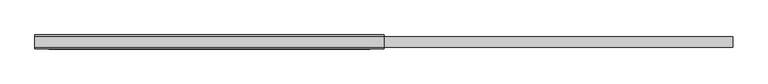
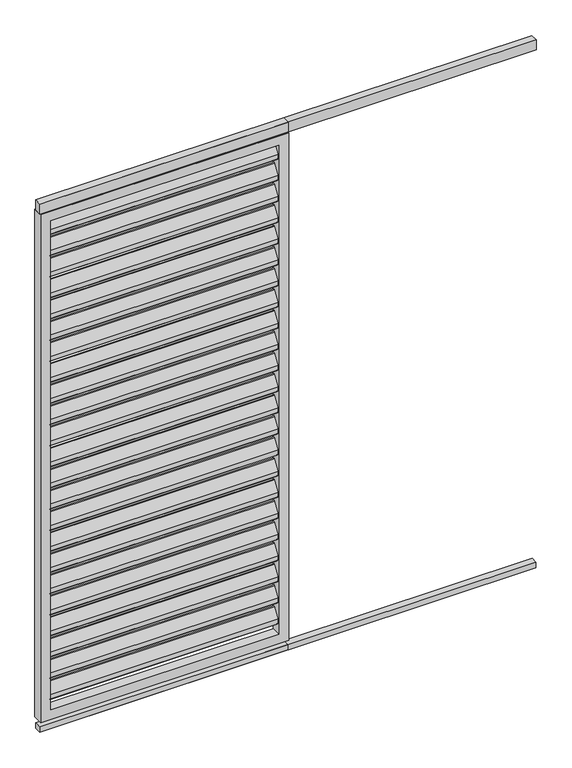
"""IFC4 building model written with IfcOpenShell, lengths in millimetres: proxy geometry, Renson_Camargue_Loggia_Paro_Aluminium : Renson_Camargue_Loggia_Paro_Aluminium."""

from ifc_helpers import new_model, si_unit, point, frame, frame_2d, origin, origin_with_axes, place, context, project, spatial, polyline, circle_curve, trimmed, segment, composite_curve, outline, extrude, source, transform, mapped, element, save


def generic_models_a9ccf2dc(model_context):
    return source(origin(), model_context, "Body", "SweptSolid", [
        extrude(outline(composite_curve([segment(trimmed(circle_curve(frame_2d((12.6675921, 2162.6587719)), 3.0), [point((10.1515804, 2164.292689))], [point((15.6675921, 2162.6587719))], False, "CARTESIAN"), True, "CONTINUOUS"), segment(polyline([(15.6675921, 2162.6587719), (15.6675921, 2144.2979873)]), True, "CONTINUOUS"), segment(trimmed(circle_curve(frame_2d((12.6675921, 2144.2979873)), 3.0), [point((15.6675921, 2144.2979873))], [point((15.1836038, 2142.6640702))], False, "CARTESIAN"), True, "CONTINUOUS"), segment(polyline([(15.1836038, 2142.6640702), (-8.8163962, 2105.707311)]), True, "CONTINUOUS"), segment(trimmed(circle_curve(frame_2d((-11.3324079, 2107.3412281)), 3.0), [point((-8.8163962, 2105.707311))], [point((-14.3324079, 2107.3412281))], False, "CARTESIAN"), True, "CONTINUOUS"), segment(polyline([(-14.3324079, 2107.3412281), (-14.3324079, 2126.5906532), (10.1515804, 2164.292689)]), True, "CONTINUOUS")], self_intersect=False)), frame((-460.0, 0.0, 0.0), z_axis=(1.0, 0.0, 0.0), x_axis=(0.0, 1.0, 0.0)), (0.0, 0.0, 1.0), 920.0),
        extrude(outline(composite_curve([segment(trimmed(circle_curve(frame_2d((12.6675921, 2072.6587719)), 3.0), [point((10.1515804, 2074.292689))], [point((15.6675921, 2072.6587719))], False, "CARTESIAN"), True, "CONTINUOUS"), segment(polyline([(15.6675921, 2072.6587719), (15.6675921, 2054.2979873)]), True, "CONTINUOUS"), segment(trimmed(circle_curve(frame_2d((12.6675921, 2054.2979873)), 3.0), [point((15.6675921, 2054.2979873))], [point((15.1836038, 2052.6640702))], False, "CARTESIAN"), True, "CONTINUOUS"), segment(polyline([(15.1836038, 2052.6640702), (-8.8163962, 2015.707311)]), True, "CONTINUOUS"), segment(trimmed(circle_curve(frame_2d((-11.3324079, 2017.3412281)), 3.0), [point((-8.8163962, 2015.707311))], [point((-14.3324079, 2017.3412281))], False, "CARTESIAN"), True, "CONTINUOUS"), segment(polyline([(-14.3324079, 2017.3412281), (-14.3324079, 2036.5906532), (10.1515804, 2074.292689)]), True, "CONTINUOUS")], self_intersect=False)), frame((-460.0, 0.0, 0.0), z_axis=(1.0, 0.0, 0.0), x_axis=(0.0, 1.0, 0.0)), (0.0, 0.0, 1.0), 920.0),
        extrude(outline(composite_curve([segment(trimmed(circle_curve(frame_2d((12.6675921, 1982.6587719)), 3.0), [point((10.1515804, 1984.292689))], [point((15.6675921, 1982.6587719))], False, "CARTESIAN"), True, "CONTINUOUS"), segment(polyline([(15.6675921, 1982.6587719), (15.6675921, 1964.2979873)]), True, "CONTINUOUS"), segment(trimmed(circle_curve(frame_2d((12.6675921, 1964.2979873)), 3.0), [point((15.6675921, 1964.2979873))], [point((15.1836038, 1962.6640702))], False, "CARTESIAN"), True, "CONTINUOUS"), segment(polyline([(15.1836038, 1962.6640702), (-8.8163962, 1925.707311)]), True, "CONTINUOUS"), segment(trimmed(circle_curve(frame_2d((-11.3324079, 1927.3412281)), 3.0), [point((-8.8163962, 1925.707311))], [point((-14.3324079, 1927.3412281))], False, "CARTESIAN"), True, "CONTINUOUS"), segment(polyline([(-14.3324079, 1927.3412281), (-14.3324079, 1946.5906532), (10.1515804, 1984.292689)]), True, "CONTINUOUS")], self_intersect=False)), frame((-460.0, 0.0, 0.0), z_axis=(1.0, 0.0, 0.0), x_axis=(0.0, 1.0, 0.0)), (0.0, 0.0, 1.0), 920.0),
        extrude(outline(composite_curve([segment(trimmed(circle_curve(frame_2d((12.6675921, 1892.6587719)), 3.0), [point((10.1515804, 1894.292689))], [point((15.6675921, 1892.6587719))], False, "CARTESIAN"), True, "CONTINUOUS"), segment(polyline([(15.6675921, 1892.6587719), (15.6675921, 1874.2979873)]), True, "CONTINUOUS"), segment(trimmed(circle_curve(frame_2d((12.6675921, 1874.2979873)), 3.0), [point((15.6675921, 1874.2979873))], [point((15.1836038, 1872.6640702))], False, "CARTESIAN"), True, "CONTINUOUS"), segment(polyline([(15.1836038, 1872.6640702), (-8.8163962, 1835.707311)]), True, "CONTINUOUS"), segment(trimmed(circle_curve(frame_2d((-11.3324079, 1837.3412281)), 3.0), [point((-8.8163962, 1835.707311))], [point((-14.3324079, 1837.3412281))], False, "CARTESIAN"), True, "CONTINUOUS"), segment(polyline([(-14.3324079, 1837.3412281), (-14.3324079, 1856.5906532), (10.1515804, 1894.292689)]), True, "CONTINUOUS")], self_intersect=False)), frame((-460.0, 0.0, 0.0), z_axis=(1.0, 0.0, 0.0), x_axis=(0.0, 1.0, 0.0)), (0.0, 0.0, 1.0), 920.0),
        extrude(outline(composite_curve([segment(trimmed(circle_curve(frame_2d((12.6675921, 1802.6587719)), 3.0), [point((10.1515804, 1804.292689))], [point((15.6675921, 1802.6587719))], False, "CARTESIAN"), True, "CONTINUOUS"), segment(polyline([(15.6675921, 1802.6587719), (15.6675921, 1784.2979873)]), True, "CONTINUOUS"), segment(trimmed(circle_curve(frame_2d((12.6675921, 1784.2979873)), 3.0), [point((15.6675921, 1784.2979873))], [point((15.1836038, 1782.6640702))], False, "CARTESIAN"), True, "CONTINUOUS"), segment(polyline([(15.1836038, 1782.6640702), (-8.8163962, 1745.707311)]), True, "CONTINUOUS"), segment(trimmed(circle_curve(frame_2d((-11.3324079, 1747.3412281)), 3.0), [point((-8.8163962, 1745.707311))], [point((-14.3324079, 1747.3412281))], False, "CARTESIAN"), True, "CONTINUOUS"), segment(polyline([(-14.3324079, 1747.3412281), (-14.3324079, 1766.5906532), (10.1515804, 1804.292689)]), True, "CONTINUOUS")], self_intersect=False)), frame((-460.0, 0.0, 0.0), z_axis=(1.0, 0.0, 0.0), x_axis=(0.0, 1.0, 0.0)), (0.0, 0.0, 1.0), 920.0),
        extrude(outline(composite_curve([segment(trimmed(circle_curve(frame_2d((12.6675921, 1712.6587719)), 3.0), [point((10.1515804, 1714.292689))], [point((15.6675921, 1712.6587719))], False, "CARTESIAN"), True, "CONTINUOUS"), segment(polyline([(15.6675921, 1712.6587719), (15.6675921, 1694.2979873)]), True, "CONTINUOUS"), segment(trimmed(circle_curve(frame_2d((12.6675921, 1694.2979873)), 3.0), [point((15.6675921, 1694.2979873))], [point((15.1836038, 1692.6640702))], False, "CARTESIAN"), True, "CONTINUOUS"), segment(polyline([(15.1836038, 1692.6640702), (-8.8163962, 1655.707311)]), True, "CONTINUOUS"), segment(trimmed(circle_curve(frame_2d((-11.3324079, 1657.3412281)), 3.0), [point((-8.8163962, 1655.707311))], [point((-14.3324079, 1657.3412281))], False, "CARTESIAN"), True, "CONTINUOUS"), segment(polyline([(-14.3324079, 1657.3412281), (-14.3324079, 1676.5906532), (10.1515804, 1714.292689)]), True, "CONTINUOUS")], self_intersect=False)), frame((-460.0, 0.0, 0.0), z_axis=(1.0, 0.0, 0.0), x_axis=(0.0, 1.0, 0.0)), (0.0, 0.0, 1.0), 920.0),
        extrude(outline(composite_curve([segment(trimmed(circle_curve(frame_2d((12.6675921, 1622.6587719)), 3.0), [point((10.1515804, 1624.292689))], [point((15.6675921, 1622.6587719))], False, "CARTESIAN"), True, "CONTINUOUS"), segment(polyline([(15.6675921, 1622.6587719), (15.6675921, 1604.2979873)]), True, "CONTINUOUS"), segment(trimmed(circle_curve(frame_2d((12.6675921, 1604.2979873)), 3.0), [point((15.6675921, 1604.2979873))], [point((15.1836038, 1602.6640702))], False, "CARTESIAN"), True, "CONTINUOUS"), segment(polyline([(15.1836038, 1602.6640702), (-8.8163962, 1565.707311)]), True, "CONTINUOUS"), segment(trimmed(circle_curve(frame_2d((-11.3324079, 1567.3412281)), 3.0), [point((-8.8163962, 1565.707311))], [point((-14.3324079, 1567.3412281))], False, "CARTESIAN"), True, "CONTINUOUS"), segment(polyline([(-14.3324079, 1567.3412281), (-14.3324079, 1586.5906532), (10.1515804, 1624.292689)]), True, "CONTINUOUS")], self_intersect=False)), frame((-460.0, 0.0, 0.0), z_axis=(1.0, 0.0, 0.0), x_axis=(0.0, 1.0, 0.0)), (0.0, 0.0, 1.0), 920.0),
        extrude(outline(composite_curve([segment(trimmed(circle_curve(frame_2d((12.6675921, 1532.6587719)), 3.0), [point((10.1515804, 1534.292689))], [point((15.6675921, 1532.6587719))], False, "CARTESIAN"), True, "CONTINUOUS"), segment(polyline([(15.6675921, 1532.6587719), (15.6675921, 1514.2979873)]), True, "CONTINUOUS"), segment(trimmed(circle_curve(frame_2d((12.6675921, 1514.2979873)), 3.0), [point((15.6675921, 1514.2979873))], [point((15.1836038, 1512.6640702))], False, "CARTESIAN"), True, "CONTINUOUS"), segment(polyline([(15.1836038, 1512.6640702), (-8.8163962, 1475.707311)]), True, "CONTINUOUS"), segment(trimmed(circle_curve(frame_2d((-11.3324079, 1477.3412281)), 3.0), [point((-8.8163962, 1475.707311))], [point((-14.3324079, 1477.3412281))], False, "CARTESIAN"), True, "CONTINUOUS"), segment(polyline([(-14.3324079, 1477.3412281), (-14.3324079, 1496.5906532), (10.1515804, 1534.292689)]), True, "CONTINUOUS")], self_intersect=False)), frame((-460.0, 0.0, 0.0), z_axis=(1.0, 0.0, 0.0), x_axis=(0.0, 1.0, 0.0)), (0.0, 0.0, 1.0), 920.0),
        extrude(outline(composite_curve([segment(trimmed(circle_curve(frame_2d((12.6675921, 1442.6587719)), 3.0), [point((10.1515804, 1444.292689))], [point((15.6675921, 1442.6587719))], False, "CARTESIAN"), True, "CONTINUOUS"), segment(polyline([(15.6675921, 1442.6587719), (15.6675921, 1424.2979873)]), True, "CONTINUOUS"), segment(trimmed(circle_curve(frame_2d((12.6675921, 1424.2979873)), 3.0), [point((15.6675921, 1424.2979873))], [point((15.1836038, 1422.6640702))], False, "CARTESIAN"), True, "CONTINUOUS"), segment(polyline([(15.1836038, 1422.6640702), (-8.8163962, 1385.707311)]), True, "CONTINUOUS"), segment(trimmed(circle_curve(frame_2d((-11.3324079, 1387.3412281)), 3.0), [point((-8.8163962, 1385.707311))], [point((-14.3324079, 1387.3412281))], False, "CARTESIAN"), True, "CONTINUOUS"), segment(polyline([(-14.3324079, 1387.3412281), (-14.3324079, 1406.5906532), (10.1515804, 1444.292689)]), True, "CONTINUOUS")], self_intersect=False)), frame((-460.0, 0.0, 0.0), z_axis=(1.0, 0.0, 0.0), x_axis=(0.0, 1.0, 0.0)), (0.0, 0.0, 1.0), 920.0),
        extrude(outline(composite_curve([segment(trimmed(circle_curve(frame_2d((12.6675921, 1352.6587719)), 3.0), [point((10.1515804, 1354.292689))], [point((15.6675921, 1352.6587719))], False, "CARTESIAN"), True, "CONTINUOUS"), segment(polyline([(15.6675921, 1352.6587719), (15.6675921, 1334.2979873)]), True, "CONTINUOUS"), segment(trimmed(circle_curve(frame_2d((12.6675921, 1334.2979873)), 3.0), [point((15.6675921, 1334.2979873))], [point((15.1836038, 1332.6640702))], False, "CARTESIAN"), True, "CONTINUOUS"), segment(polyline([(15.1836038, 1332.6640702), (-8.8163962, 1295.707311)]), True, "CONTINUOUS"), segment(trimmed(circle_curve(frame_2d((-11.3324079, 1297.3412281)), 3.0), [point((-8.8163962, 1295.707311))], [point((-14.3324079, 1297.3412281))], False, "CARTESIAN"), True, "CONTINUOUS"), segment(polyline([(-14.3324079, 1297.3412281), (-14.3324079, 1316.5906532), (10.1515804, 1354.292689)]), True, "CONTINUOUS")], self_intersect=False)), frame((-460.0, 0.0, 0.0), z_axis=(1.0, 0.0, 0.0), x_axis=(0.0, 1.0, 0.0)), (0.0, 0.0, 1.0), 920.0),
        extrude(outline(composite_curve([segment(trimmed(circle_curve(frame_2d((12.6675921, 1262.6587719)), 3.0), [point((10.1515804, 1264.292689))], [point((15.6675921, 1262.6587719))], False, "CARTESIAN"), True, "CONTINUOUS"), segment(polyline([(15.6675921, 1262.6587719), (15.6675921, 1244.2979873)]), True, "CONTINUOUS"), segment(trimmed(circle_curve(frame_2d((12.6675921, 1244.2979873)), 3.0), [point((15.6675921, 1244.2979873))], [point((15.1836038, 1242.6640702))], False, "CARTESIAN"), True, "CONTINUOUS"), segment(polyline([(15.1836038, 1242.6640702), (-8.8163962, 1205.707311)]), True, "CONTINUOUS"), segment(trimmed(circle_curve(frame_2d((-11.3324079, 1207.3412281)), 3.0), [point((-8.8163962, 1205.707311))], [point((-14.3324079, 1207.3412281))], False, "CARTESIAN"), True, "CONTINUOUS"), segment(polyline([(-14.3324079, 1207.3412281), (-14.3324079, 1226.5906532), (10.1515804, 1264.292689)]), True, "CONTINUOUS")], self_intersect=False)), frame((-460.0, 0.0, 0.0), z_axis=(1.0, 0.0, 0.0), x_axis=(0.0, 1.0, 0.0)), (0.0, 0.0, 1.0), 920.0),
        extrude(outline(composite_curve([segment(trimmed(circle_curve(frame_2d((12.6675921, 1172.6587719)), 3.0), [point((10.1515804, 1174.292689))], [point((15.6675921, 1172.6587719))], False, "CARTESIAN"), True, "CONTINUOUS"), segment(polyline([(15.6675921, 1172.6587719), (15.6675921, 1154.2979873)]), True, "CONTINUOUS"), segment(trimmed(circle_curve(frame_2d((12.6675921, 1154.2979873)), 3.0), [point((15.6675921, 1154.2979873))], [point((15.1836038, 1152.6640702))], False, "CARTESIAN"), True, "CONTINUOUS"), segment(polyline([(15.1836038, 1152.6640702), (-8.8163962, 1115.707311)]), True, "CONTINUOUS"), segment(trimmed(circle_curve(frame_2d((-11.3324079, 1117.3412281)), 3.0), [point((-8.8163962, 1115.707311))], [point((-14.3324079, 1117.3412281))], False, "CARTESIAN"), True, "CONTINUOUS"), segment(polyline([(-14.3324079, 1117.3412281), (-14.3324079, 1136.5906532), (10.1515804, 1174.292689)]), True, "CONTINUOUS")], self_intersect=False)), frame((-460.0, 0.0, 0.0), z_axis=(1.0, 0.0, 0.0), x_axis=(0.0, 1.0, 0.0)), (0.0, 0.0, 1.0), 920.0),
        extrude(outline(composite_curve([segment(trimmed(circle_curve(frame_2d((12.6675921, 1082.6587719)), 3.0), [point((10.1515804, 1084.292689))], [point((15.6675921, 1082.6587719))], False, "CARTESIAN"), True, "CONTINUOUS"), segment(polyline([(15.6675921, 1082.6587719), (15.6675921, 1064.2979873)]), True, "CONTINUOUS"), segment(trimmed(circle_curve(frame_2d((12.6675921, 1064.2979873)), 3.0), [point((15.6675921, 1064.2979873))], [point((15.1836038, 1062.6640702))], False, "CARTESIAN"), True, "CONTINUOUS"), segment(polyline([(15.1836038, 1062.6640702), (-8.8163962, 1025.707311)]), True, "CONTINUOUS"), segment(trimmed(circle_curve(frame_2d((-11.3324079, 1027.3412281)), 3.0), [point((-8.8163962, 1025.707311))], [point((-14.3324079, 1027.3412281))], False, "CARTESIAN"), True, "CONTINUOUS"), segment(polyline([(-14.3324079, 1027.3412281), (-14.3324079, 1046.5906532), (10.1515804, 1084.292689)]), True, "CONTINUOUS")], self_intersect=False)), frame((-460.0, 0.0, 0.0), z_axis=(1.0, 0.0, 0.0), x_axis=(0.0, 1.0, 0.0)), (0.0, 0.0, 1.0), 920.0),
        extrude(outline(composite_curve([segment(trimmed(circle_curve(frame_2d((12.6675921, 992.6587719)), 3.0), [point((10.1515804, 994.292689))], [point((15.6675921, 992.6587719))], False, "CARTESIAN"), True, "CONTINUOUS"), segment(polyline([(15.6675921, 992.6587719), (15.6675921, 974.2979873)]), True, "CONTINUOUS"), segment(trimmed(circle_curve(frame_2d((12.6675921, 974.2979873)), 3.0), [point((15.6675921, 974.2979873))], [point((15.1836038, 972.6640702))], False, "CARTESIAN"), True, "CONTINUOUS"), segment(polyline([(15.1836038, 972.6640702), (-8.8163962, 935.707311)]), True, "CONTINUOUS"), segment(trimmed(circle_curve(frame_2d((-11.3324079, 937.3412281)), 3.0), [point((-8.8163962, 935.707311))], [point((-14.3324079, 937.3412281))], False, "CARTESIAN"), True, "CONTINUOUS"), segment(polyline([(-14.3324079, 937.3412281), (-14.3324079, 956.5906532), (10.1515804, 994.292689)]), True, "CONTINUOUS")], self_intersect=False)), frame((-460.0, 0.0, 0.0), z_axis=(1.0, 0.0, 0.0), x_axis=(0.0, 1.0, 0.0)), (0.0, 0.0, 1.0), 920.0),
        extrude(outline(composite_curve([segment(trimmed(circle_curve(frame_2d((12.6675921, 902.6587719)), 3.0), [point((10.1515804, 904.292689))], [point((15.6675921, 902.6587719))], False, "CARTESIAN"), True, "CONTINUOUS"), segment(polyline([(15.6675921, 902.6587719), (15.6675921, 884.2979873)]), True, "CONTINUOUS"), segment(trimmed(circle_curve(frame_2d((12.6675921, 884.2979873)), 3.0), [point((15.6675921, 884.2979873))], [point((15.1836038, 882.6640702))], False, "CARTESIAN"), True, "CONTINUOUS"), segment(polyline([(15.1836038, 882.6640702), (-8.8163962, 845.707311)]), True, "CONTINUOUS"), segment(trimmed(circle_curve(frame_2d((-11.3324079, 847.3412281)), 3.0), [point((-8.8163962, 845.707311))], [point((-14.3324079, 847.3412281))], False, "CARTESIAN"), True, "CONTINUOUS"), segment(polyline([(-14.3324079, 847.3412281), (-14.3324079, 866.5906532), (10.1515804, 904.292689)]), True, "CONTINUOUS")], self_intersect=False)), frame((-460.0, 0.0, 0.0), z_axis=(1.0, 0.0, 0.0), x_axis=(0.0, 1.0, 0.0)), (0.0, 0.0, 1.0), 920.0),
        extrude(outline(composite_curve([segment(trimmed(circle_curve(frame_2d((12.6675921, 812.6587719)), 3.0), [point((10.1515804, 814.292689))], [point((15.6675921, 812.6587719))], False, "CARTESIAN"), True, "CONTINUOUS"), segment(polyline([(15.6675921, 812.6587719), (15.6675921, 794.2979873)]), True, "CONTINUOUS"), segment(trimmed(circle_curve(frame_2d((12.6675921, 794.2979873)), 3.0), [point((15.6675921, 794.2979873))], [point((15.1836038, 792.6640702))], False, "CARTESIAN"), True, "CONTINUOUS"), segment(polyline([(15.1836038, 792.6640702), (-8.8163962, 755.707311)]), True, "CONTINUOUS"), segment(trimmed(circle_curve(frame_2d((-11.3324079, 757.3412281)), 3.0), [point((-8.8163962, 755.707311))], [point((-14.3324079, 757.3412281))], False, "CARTESIAN"), True, "CONTINUOUS"), segment(polyline([(-14.3324079, 757.3412281), (-14.3324079, 776.5906532), (10.1515804, 814.292689)]), True, "CONTINUOUS")], self_intersect=False)), frame((-460.0, 0.0, 0.0), z_axis=(1.0, 0.0, 0.0), x_axis=(0.0, 1.0, 0.0)), (0.0, 0.0, 1.0), 920.0),
        extrude(outline(composite_curve([segment(trimmed(circle_curve(frame_2d((12.6675921, 722.6587719)), 3.0), [point((10.1515804, 724.292689))], [point((15.6675921, 722.6587719))], False, "CARTESIAN"), True, "CONTINUOUS"), segment(polyline([(15.6675921, 722.6587719), (15.6675921, 704.2979873)]), True, "CONTINUOUS"), segment(trimmed(circle_curve(frame_2d((12.6675921, 704.2979873)), 3.0), [point((15.6675921, 704.2979873))], [point((15.1836038, 702.6640702))], False, "CARTESIAN"), True, "CONTINUOUS"), segment(polyline([(15.1836038, 702.6640702), (-8.8163962, 665.707311)]), True, "CONTINUOUS"), segment(trimmed(circle_curve(frame_2d((-11.3324079, 667.3412281)), 3.0), [point((-8.8163962, 665.707311))], [point((-14.3324079, 667.3412281))], False, "CARTESIAN"), True, "CONTINUOUS"), segment(polyline([(-14.3324079, 667.3412281), (-14.3324079, 686.5906532), (10.1515804, 724.292689)]), True, "CONTINUOUS")], self_intersect=False)), frame((-460.0, 0.0, 0.0), z_axis=(1.0, 0.0, 0.0), x_axis=(0.0, 1.0, 0.0)), (0.0, 0.0, 1.0), 920.0),
        extrude(outline(composite_curve([segment(trimmed(circle_curve(frame_2d((12.6675921, 632.6587719)), 3.0), [point((10.1515804, 634.292689))], [point((15.6675921, 632.6587719))], False, "CARTESIAN"), True, "CONTINUOUS"), segment(polyline([(15.6675921, 632.6587719), (15.6675921, 614.2979873)]), True, "CONTINUOUS"), segment(trimmed(circle_curve(frame_2d((12.6675921, 614.2979873)), 3.0), [point((15.6675921, 614.2979873))], [point((15.1836038, 612.6640702))], False, "CARTESIAN"), True, "CONTINUOUS"), segment(polyline([(15.1836038, 612.6640702), (-8.8163962, 575.707311)]), True, "CONTINUOUS"), segment(trimmed(circle_curve(frame_2d((-11.3324079, 577.3412281)), 3.0), [point((-8.8163962, 575.707311))], [point((-14.3324079, 577.3412281))], False, "CARTESIAN"), True, "CONTINUOUS"), segment(polyline([(-14.3324079, 577.3412281), (-14.3324079, 596.5906532), (10.1515804, 634.292689)]), True, "CONTINUOUS")], self_intersect=False)), frame((-460.0, 0.0, 0.0), z_axis=(1.0, 0.0, 0.0), x_axis=(0.0, 1.0, 0.0)), (0.0, 0.0, 1.0), 920.0),
        extrude(outline(composite_curve([segment(trimmed(circle_curve(frame_2d((12.6675921, 542.6587719)), 3.0), [point((10.1515804, 544.292689))], [point((15.6675921, 542.6587719))], False, "CARTESIAN"), True, "CONTINUOUS"), segment(polyline([(15.6675921, 542.6587719), (15.6675921, 524.2979873)]), True, "CONTINUOUS"), segment(trimmed(circle_curve(frame_2d((12.6675921, 524.2979873)), 3.0), [point((15.6675921, 524.2979873))], [point((15.1836038, 522.6640702))], False, "CARTESIAN"), True, "CONTINUOUS"), segment(polyline([(15.1836038, 522.6640702), (-8.8163962, 485.707311)]), True, "CONTINUOUS"), segment(trimmed(circle_curve(frame_2d((-11.3324079, 487.3412281)), 3.0), [point((-8.8163962, 485.707311))], [point((-14.3324079, 487.3412281))], False, "CARTESIAN"), True, "CONTINUOUS"), segment(polyline([(-14.3324079, 487.3412281), (-14.3324079, 506.5906532), (10.1515804, 544.292689)]), True, "CONTINUOUS")], self_intersect=False)), frame((-460.0, 0.0, 0.0), z_axis=(1.0, 0.0, 0.0), x_axis=(0.0, 1.0, 0.0)), (0.0, 0.0, 1.0), 920.0),
        extrude(outline(composite_curve([segment(trimmed(circle_curve(frame_2d((12.6675921, 452.6587719)), 3.0), [point((10.1515804, 454.292689))], [point((15.6675921, 452.6587719))], False, "CARTESIAN"), True, "CONTINUOUS"), segment(polyline([(15.6675921, 452.6587719), (15.6675921, 434.2979873)]), True, "CONTINUOUS"), segment(trimmed(circle_curve(frame_2d((12.6675921, 434.2979873)), 3.0), [point((15.6675921, 434.2979873))], [point((15.1836038, 432.6640702))], False, "CARTESIAN"), True, "CONTINUOUS"), segment(polyline([(15.1836038, 432.6640702), (-8.8163962, 395.707311)]), True, "CONTINUOUS"), segment(trimmed(circle_curve(frame_2d((-11.3324079, 397.3412281)), 3.0), [point((-8.8163962, 395.707311))], [point((-14.3324079, 397.3412281))], False, "CARTESIAN"), True, "CONTINUOUS"), segment(polyline([(-14.3324079, 397.3412281), (-14.3324079, 416.5906532), (10.1515804, 454.292689)]), True, "CONTINUOUS")], self_intersect=False)), frame((-460.0, 0.0, 0.0), z_axis=(1.0, 0.0, 0.0), x_axis=(0.0, 1.0, 0.0)), (0.0, 0.0, 1.0), 920.0),
        extrude(outline(composite_curve([segment(trimmed(circle_curve(frame_2d((12.6675921, 362.6587719)), 3.0), [point((10.1515804, 364.292689))], [point((15.6675921, 362.6587719))], False, "CARTESIAN"), True, "CONTINUOUS"), segment(polyline([(15.6675921, 362.6587719), (15.6675921, 344.2979873)]), True, "CONTINUOUS"), segment(trimmed(circle_curve(frame_2d((12.6675921, 344.2979873)), 3.0), [point((15.6675921, 344.2979873))], [point((15.1836038, 342.6640702))], False, "CARTESIAN"), True, "CONTINUOUS"), segment(polyline([(15.1836038, 342.6640702), (-8.8163962, 305.707311)]), True, "CONTINUOUS"), segment(trimmed(circle_curve(frame_2d((-11.3324079, 307.3412281)), 3.0), [point((-8.8163962, 305.707311))], [point((-14.3324079, 307.3412281))], False, "CARTESIAN"), True, "CONTINUOUS"), segment(polyline([(-14.3324079, 307.3412281), (-14.3324079, 326.5906532), (10.1515804, 364.292689)]), True, "CONTINUOUS")], self_intersect=False)), frame((-460.0, 0.0, 0.0), z_axis=(1.0, 0.0, 0.0), x_axis=(0.0, 1.0, 0.0)), (0.0, 0.0, 1.0), 920.0),
        extrude(outline(composite_curve([segment(trimmed(circle_curve(frame_2d((12.6675921, 272.6587719)), 3.0), [point((10.1515804, 274.292689))], [point((15.6675921, 272.6587719))], False, "CARTESIAN"), True, "CONTINUOUS"), segment(polyline([(15.6675921, 272.6587719), (15.6675921, 254.2979873)]), True, "CONTINUOUS"), segment(trimmed(circle_curve(frame_2d((12.6675921, 254.2979873)), 3.0), [point((15.6675921, 254.2979873))], [point((15.1836038, 252.6640702))], False, "CARTESIAN"), True, "CONTINUOUS"), segment(polyline([(15.1836038, 252.6640702), (-8.8163962, 215.707311)]), True, "CONTINUOUS"), segment(trimmed(circle_curve(frame_2d((-11.3324079, 217.3412281)), 3.0), [point((-8.8163962, 215.707311))], [point((-14.3324079, 217.3412281))], False, "CARTESIAN"), True, "CONTINUOUS"), segment(polyline([(-14.3324079, 217.3412281), (-14.3324079, 236.5906532), (10.1515804, 274.292689)]), True, "CONTINUOUS")], self_intersect=False)), frame((-460.0, 0.0, 0.0), z_axis=(1.0, 0.0, 0.0), x_axis=(0.0, 1.0, 0.0)), (0.0, 0.0, 1.0), 920.0),
        extrude(outline(composite_curve([segment(trimmed(circle_curve(frame_2d((12.6675921, 182.6587719)), 3.0), [point((10.1515804, 184.292689))], [point((15.6675921, 182.6587719))], False, "CARTESIAN"), True, "CONTINUOUS"), segment(polyline([(15.6675921, 182.6587719), (15.6675921, 164.2979873)]), True, "CONTINUOUS"), segment(trimmed(circle_curve(frame_2d((12.6675921, 164.2979873)), 3.0), [point((15.6675921, 164.2979873))], [point((15.1836038, 162.6640702))], False, "CARTESIAN"), True, "CONTINUOUS"), segment(polyline([(15.1836038, 162.6640702), (-8.8163962, 125.707311)]), True, "CONTINUOUS"), segment(trimmed(circle_curve(frame_2d((-11.3324079, 127.3412281)), 3.0), [point((-8.8163962, 125.707311))], [point((-14.3324079, 127.3412281))], False, "CARTESIAN"), True, "CONTINUOUS"), segment(polyline([(-14.3324079, 127.3412281), (-14.3324079, 146.5906532), (10.1515804, 184.292689)]), True, "CONTINUOUS")], self_intersect=False)), frame((-460.0, 0.0, 0.0), z_axis=(1.0, 0.0, 0.0), x_axis=(0.0, 1.0, 0.0)), (0.0, 0.0, 1.0), 920.0),
        extrude(outline(polyline([(500.0, 15.0), (500.0, -15.0), (-500.0, -15.0), (-500.0, 15.0), (500.0, 15.0)])), frame((0.0, 0.0, 2207.7138321), z_axis=(0.0, 0.0, 1.0), x_axis=(1.0, 0.0, 0.0)), (0.0, 0.0, 1.0), 42.2861679),
        extrude(outline(polyline([(1500.0, 15.0), (1500.0, -15.0), (-500.0, -15.0), (-500.0, 15.0), (1500.0, 15.0)])), frame((0.0, 0.0, 2207.7138321), z_axis=(0.0, 0.0, 1.0), x_axis=(1.0, 0.0, 0.0)), (0.0, 0.0, 1.0), 42.2861679),
        extrude(outline(polyline([(500.0, -13.0), (-500.0, -13.0), (-500.0, 14.0), (500.0, 14.0), (500.0, -13.0)])), origin_with_axes(), (0.0, 0.0, 1.0), 23.0),
        extrude(outline(polyline([(1500.0, -13.0), (-500.0, -13.0), (-500.0, 14.0), (1500.0, 14.0), (1500.0, -13.0)])), origin_with_axes(), (0.0, 0.0, 1.0), 23.0),
        extrude(outline(polyline([(2207.7138321, -500.0), (45.0, -500.0), (45.0, 500.0), (2207.7138321, 500.0), (2207.7138321, -500.0)]), holes=[polyline([(2167.7138321, 460.0), (85.0, 460.0), (85.0, -460.0), (2167.7138321, -460.0), (2167.7138321, 460.0)])]), frame((0.0, -20.0, 0.0), z_axis=(0.0, 1.0, 0.0), x_axis=(0.0, 0.0, 1.0)), (0.0, 0.0, 1.0), 40.0),
    ])


if __name__ == "__main__":
    model = new_model("IFC4")
    model_context = context("Model", 3, world=origin())
    ifc_project = project(units=[si_unit("LENGTHUNIT", "METRE", prefix="MILLI")], contexts=[model_context])
    site = spatial("IfcSite", under=ifc_project)
    building = spatial("IfcBuilding", under=site)
    placement = place(None, origin())
    generic_models_shape = generic_models_a9ccf2dc(model_context)
    element("IfcBuildingElementProxy", 1, Name="Renson_Camargue_Loggia_Paro_Aluminium : Renson_Camargue_Loggia_Paro_Aluminium", ObjectType="Renson_Camargue_Loggia_Paro_Aluminium : Renson_Camargue_Loggia_Paro_Aluminium", at=placement, inside=building, context=model_context, shape_type="MappedRepresentation", body=[
        mapped(generic_models_shape, transform((0.0, 0.0, 0.0), x_axis=(1.0, 0.0, 0.0), y_axis=(0.0, 1.0, 0.0), z_axis=(0.0, 0.0, 1.0))),
    ])
    save(model, "model.ifc")
